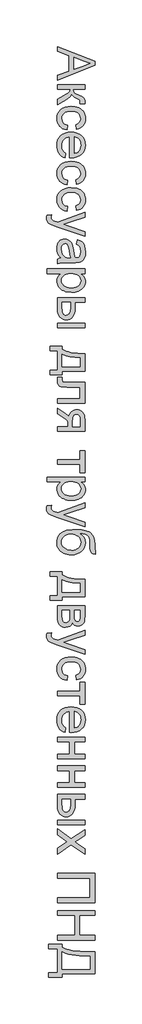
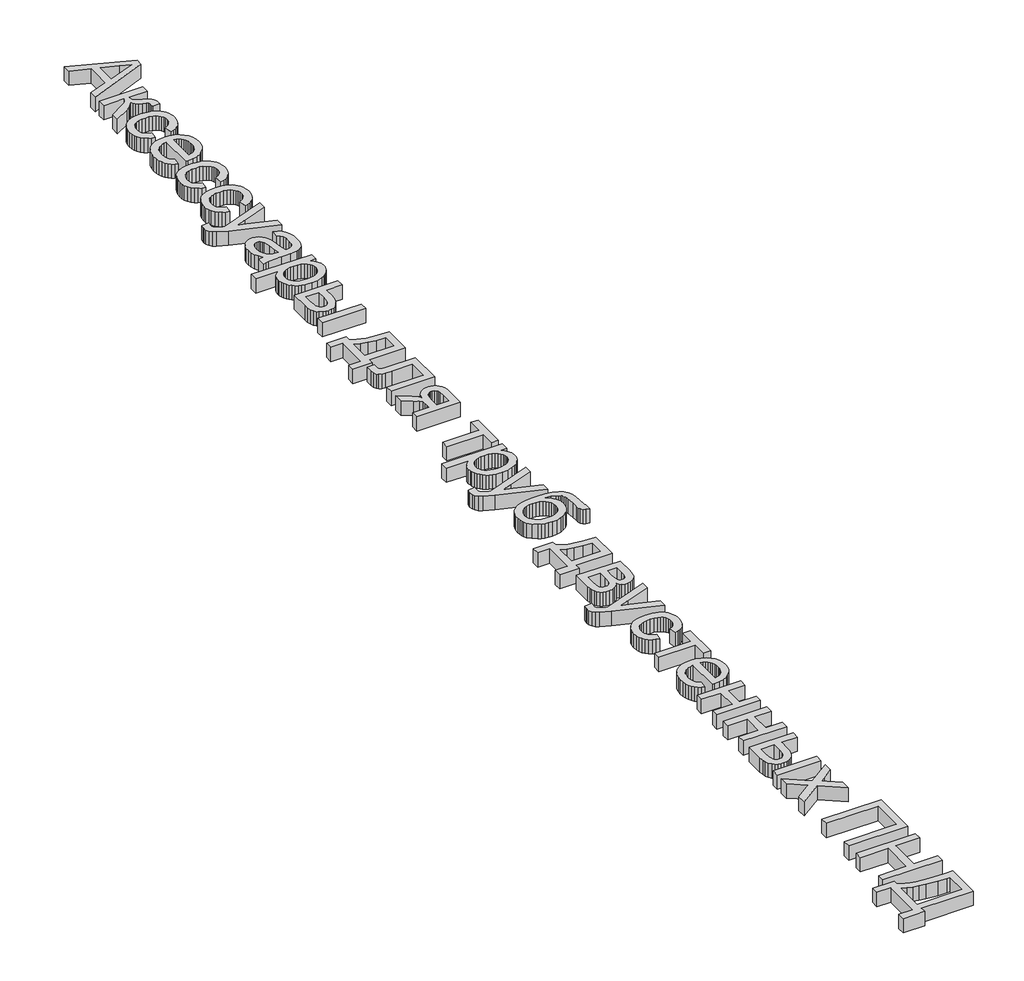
# One storey, part 33 of 33: 1 proxy.
"""IFC4 building model written with IfcOpenShell, lengths in millimetres."""

from ifc_helpers import new_model, si_unit, origin, origin_with_axes, place, context, project, spatial, polyline, outline, extrude, element, save

model = new_model("IFC4")

# Units and contexts
model_context = context("Model", 3, world=origin())
ifc_project = project(units=[si_unit("LENGTHUNIT", "METRE", prefix="MILLI")], contexts=[model_context])

# Site, building, storey
site = spatial("IfcSite", under=ifc_project)
building = spatial("IfcBuilding", under=site)
storey = spatial("IfcBuildingStorey", under=building, Name="Уровень 1", Elevation=0.0)

# Proxy
placement = place(None, origin())
element("IfcBuildingElementProxy", 1, Name="Надпись на модели 1", ObjectType="Надпись на модели 1", at=placement, inside=storey, context=model_context, shape_type="SweptSolid", body=[
    extrude(outline(polyline([(118224.4625724, -498.1536761), (118815.2318032, -733.9709838), (118815.2318032, -796.8555992), (118224.4625724, -1032.6729069), (118224.4625724, -954.6440607), (118409.077957, -886.99983), (118409.077957, -643.6825223), (118224.4625724, -576.1825223), (118224.4625724, -498.1536761)]), holes=[polyline([(118482.9241109, -670.7979069), (118482.9241109, -860.0286761), (118628.1644955, -806.8075223), (118741.3856493, -765.4132915), (118640.8568032, -728.6344454), (118482.9241109, -670.7979069)])]), origin_with_axes(), (0.0, 0.0, 1.0), 150.0),
    extrude(outline(polyline([(118658.3087262, -1102.3363684), (118658.3087262, -1176.1825223), (118473.6933416, -1176.1825223), (118477.0106493, -1206.21858), (118486.9625724, -1225.6536761), (118512.9241109, -1242.8531954), (118564.2702647, -1266.1825223), (118606.2594474, -1284.9866088), (118630.9769955, -1299.8604069), (118644.4445436, -1313.7426184), (118652.6837262, -1329.5719454), (118656.9024762, -1351.4769934), (118658.3087262, -1383.5863684), (118658.3087262, -1397.7209838), (118584.0298801, -1397.7209838), (118584.4625724, -1377.8171377), (118582.515457, -1354.7402146), (118576.6741109, -1341.7594454), (118560.4120916, -1331.2305992), (118528.0683416, -1316.37483), (118495.6705051, -1300.7798781), (118475.4962262, -1286.5911761), (118462.0286782, -1269.4096857), (118449.7510339, -1244.8363684), (118439.3574041, -1268.2378107), (118421.0130532, -1291.4229069), (118394.7179811, -1314.3916569), (118360.4721878, -1337.1440607), (118224.4625724, -1416.1825223), (118224.4625724, -1332.2402146), (118357.5875724, -1254.7882915), (118393.0142551, -1233.87483), (118413.9096878, -1215.8459838), (118424.1320436, -1197.6368492), (118427.5394955, -1176.1825223), (118224.4625724, -1176.1825223), (118224.4625724, -1102.3363684), (118658.3087262, -1102.3363684)])), origin_with_axes(), (0.0, 0.0, 1.0), 150.0),
    extrude(outline(polyline([(118381.3856493, -1739.2594454), (118372.1548801, -1813.1055992), (118337.3096277, -1805.0737482), (118306.4757936, -1792.5166569), (118279.6533777, -1775.4343252), (118256.8423801, -1753.8267531), (118238.6377527, -1728.6043973), (118225.6344474, -1700.6777146), (118217.8324642, -1670.046705), (118215.2318032, -1636.7113684), (118218.8601085, -1595.2946016), (118229.7450243, -1558.1596857), (118247.8865508, -1525.3066208), (118273.2846878, -1496.7354069), (118305.461671, -1473.6089045), (118343.9397359, -1457.0899742), (118388.7188825, -1447.178616), (118439.7991109, -1443.87483), (118505.5142551, -1449.5178588), (118535.08607, -1456.5716449), (118562.4673801, -1466.4469454), (118587.1083056, -1479.2113684), (118608.4589666, -1494.9325223), (118626.5193633, -1513.6104069), (118641.2894955, -1535.2450223), (118652.7738705, -1558.8583035), (118660.9769955, -1583.4721857), (118665.8988705, -1609.0866689), (118667.5394955, -1635.7017531), (118665.2858897, -1668.4646737), (118658.5250724, -1698.0995896), (118647.2570436, -1724.6065006), (118631.4818032, -1747.9854069), (118611.5599282, -1767.8396737), (118587.8519955, -1783.7726665), (118560.3580051, -1795.7843853), (118529.077957, -1803.87483), (118519.8471878, -1730.0286761), (118552.0647359, -1716.6332434), (118575.1596878, -1695.7738684), (118589.0599282, -1668.6043973), (118593.6933416, -1636.2786761), (118591.4126926, -1611.1870295), (118584.5707455, -1588.5563204), (118573.1675003, -1568.3865487), (118557.202957, -1550.6777146), (118536.3075243, -1536.2591449), (118510.1116109, -1525.9601665), (118478.6152166, -1519.7807795), (118441.8183416, -1517.7209838), (118404.4670796, -1519.7357074), (118372.6056012, -1525.7798781), (118346.2339065, -1535.8534958), (118325.3519955, -1549.9565607), (118309.4821037, -1567.3138324), (118298.1464666, -1587.1500704), (118291.3450844, -1609.4652747), (118289.077957, -1634.2594454), (118294.7390147, -1672.4986281), (118301.8153368, -1689.0355872), (118311.7221878, -1703.8507915), (118324.5677407, -1716.5295776), (118340.4601686, -1726.6572819), (118359.3994714, -1734.2339045), (118381.3856493, -1739.2594454)])), origin_with_axes(), (0.0, 0.0, 1.0), 150.0),
    extrude(outline(polyline([(118353.6933416, -2181.4709838), (118344.4625724, -2253.87483), (118315.4631734, -2242.773568), (118289.9072839, -2227.7870896), (118267.7949041, -2208.9153949), (118249.1260339, -2186.1584838), (118234.297308, -2159.7507314), (118223.7053609, -2129.9265127), (118217.3501926, -2096.6858276), (118215.2318032, -2060.0286761), (118218.8871517, -2014.2083636), (118229.8531974, -1973.3820415), (118248.1299402, -1937.5497098), (118273.7173801, -1906.7113684), (118305.9033777, -1881.9126906), (118343.9757936, -1864.1993492), (118387.9346277, -1853.5713444), (118437.7798801, -1850.0286761), (118489.3153368, -1853.6074021), (118534.7390147, -1864.34358), (118574.0509137, -1882.2372098), (118607.2510339, -1907.2882915), (118633.6272359, -1938.0455031), (118652.4673801, -1973.0575223), (118663.7714666, -2012.3243492), (118667.5394955, -2055.8459838), (118663.7804811, -2097.9658756), (118652.5034378, -2136.0563204), (118633.7083657, -2170.117318), (118607.3952647, -2200.1488684), (118574.2672599, -2224.663592), (118535.0274762, -2242.1741088), (118489.6759137, -2252.6804189), (118438.2125724, -2256.1825223), (118418.3087262, -2255.74983), (118418.3087262, -1923.87483), (118388.8405772, -1928.1521737), (118363.0322839, -1936.6572819), (118340.8838464, -1949.3901545), (118322.3952647, -1966.3507915), (118307.8189426, -1986.601693), (118297.4072839, -2009.2053588), (118291.1602887, -2034.1617891), (118289.077957, -2061.4709838), (118292.9361301, -2100.7738684), (118304.5106493, -2133.87483), (118324.5226686, -2160.7738684), (118353.6933416, -2181.4709838)]), holes=[polyline([(118492.1548801, -1923.87483), (118492.1548801, -2182.3363684), (118531.1693032, -2172.3483877), (118546.5118512, -2163.7576425), (118559.077957, -2152.7690607), (118574.2221878, -2132.6308396), (118585.0394955, -2109.7161761), (118591.5298801, -2084.0250704), (118593.6933416, -2055.5575223), (118591.9670796, -2029.5914766), (118586.7882936, -2005.7798781), (118578.1569835, -1984.1227266), (118566.0731493, -1964.6200223), (118551.0956854, -1948.2543372), (118533.7834859, -1936.0082434), (118514.1365508, -1927.881741), (118492.1548801, -1923.87483)])]), origin_with_axes(), (0.0, 0.0, 1.0), 150.0),
    extrude(outline(polyline([(118381.3856493, -2606.9517531), (118372.1548801, -2680.7979069), (118337.3096277, -2672.7660559), (118306.4757936, -2660.2089646), (118279.6533777, -2643.1266329), (118256.8423801, -2621.5190607), (118238.6377527, -2596.296705), (118225.6344474, -2568.3700223), (118217.8324642, -2537.7390127), (118215.2318032, -2504.4036761), (118218.8601085, -2462.9869093), (118229.7450243, -2425.8519934), (118247.8865508, -2392.9989285), (118273.2846878, -2364.4277146), (118305.461671, -2341.3012122), (118343.9397359, -2324.7822819), (118388.7188825, -2314.8709237), (118439.7991109, -2311.5671377), (118505.5142551, -2317.2101665), (118535.08607, -2324.2639526), (118562.4673801, -2334.1392531), (118587.1083056, -2346.9036761), (118608.4589666, -2362.62483), (118626.5193633, -2381.3027146), (118641.2894955, -2402.93733), (118652.7738705, -2426.5506112), (118660.9769955, -2451.1644934), (118665.8988705, -2476.7789766), (118667.5394955, -2503.3940607), (118665.2858897, -2536.1569814), (118658.5250724, -2565.7918973), (118647.2570436, -2592.2988083), (118631.4818032, -2615.6777146), (118611.5599282, -2635.5319814), (118587.8519955, -2651.4649742), (118560.3580051, -2663.476693), (118529.077957, -2671.5671377), (118519.8471878, -2597.7209838), (118552.0647359, -2584.3255511), (118575.1596878, -2563.4661761), (118589.0599282, -2536.296705), (118593.6933416, -2503.9709838), (118591.4126926, -2478.8793372), (118584.5707455, -2456.2486281), (118573.1675003, -2436.0788564), (118557.202957, -2418.3700223), (118536.3075243, -2403.9514526), (118510.1116109, -2393.6524742), (118478.6152166, -2387.4730872), (118441.8183416, -2385.4132915), (118404.4670796, -2387.4280151), (118372.6056012, -2393.4721857), (118346.2339065, -2403.5458035), (118325.3519955, -2417.6488684), (118309.4821037, -2435.0061401), (118298.1464666, -2454.8423781), (118291.3450844, -2477.1575824), (118289.077957, -2501.9517531), (118294.7390147, -2540.1909357), (118301.8153368, -2556.7278949), (118311.7221878, -2571.5430992), (118324.5677407, -2584.2218853), (118340.4601686, -2594.3495896), (118359.3994714, -2601.9262122), (118381.3856493, -2606.9517531)])), origin_with_axes(), (0.0, 0.0, 1.0), 150.0),
    extrude(outline(polyline([(118381.3856493, -3022.3363684), (118372.1548801, -3096.1825223), (118337.3096277, -3088.1506713), (118306.4757936, -3075.59358), (118279.6533777, -3058.5112482), (118256.8423801, -3036.9036761), (118238.6377527, -3011.6813204), (118225.6344474, -2983.7546377), (118217.8324642, -2953.1236281), (118215.2318032, -2919.7882915), (118218.8601085, -2878.3715247), (118229.7450243, -2841.2366088), (118247.8865508, -2808.3835439), (118273.2846878, -2779.81233), (118305.461671, -2756.6858276), (118343.9397359, -2740.1668973), (118388.7188825, -2730.2555391), (118439.7991109, -2726.9517531), (118505.5142551, -2732.5947819), (118535.08607, -2739.648568), (118562.4673801, -2749.5238684), (118587.1083056, -2762.2882915), (118608.4589666, -2778.0094454), (118626.5193633, -2796.68733), (118641.2894955, -2818.3219454), (118652.7738705, -2841.9352266), (118660.9769955, -2866.5491088), (118665.8988705, -2892.163592), (118667.5394955, -2918.7786761), (118665.2858897, -2951.5415968), (118658.5250724, -2981.1765127), (118647.2570436, -3007.6834237), (118631.4818032, -3031.06233), (118611.5599282, -3050.9165968), (118587.8519955, -3066.8495896), (118560.3580051, -3078.8613083), (118529.077957, -3086.9517531), (118519.8471878, -3013.1055992), (118552.0647359, -2999.7101665), (118575.1596878, -2978.8507915), (118589.0599282, -2951.6813204), (118593.6933416, -2919.3555992), (118591.4126926, -2894.2639526), (118584.5707455, -2871.6332434), (118573.1675003, -2851.4634718), (118557.202957, -2833.7546377), (118536.3075243, -2819.336068), (118510.1116109, -2809.0370896), (118478.6152166, -2802.8577026), (118441.8183416, -2800.7979069), (118404.4670796, -2802.8126305), (118372.6056012, -2808.8568011), (118346.2339065, -2818.9304189), (118325.3519955, -2833.0334838), (118309.4821037, -2850.3907555), (118298.1464666, -2870.2269934), (118291.3450844, -2892.5421978), (118289.077957, -2917.3363684), (118294.7390147, -2955.5755511), (118301.8153368, -2972.1125103), (118311.7221878, -2986.9277146), (118324.5677407, -2999.6065006), (118340.4601686, -3009.734205), (118359.3994714, -3017.3108276), (118381.3856493, -3022.3363684)])), origin_with_axes(), (0.0, 0.0, 1.0), 150.0),
    extrude(outline(polyline([(118058.3087262, -3160.7979069), (118129.4144955, -3151.5671377), (118122.9241109, -3189.0671377), (118124.9613705, -3208.7906954), (118131.0731493, -3224.1152146), (118140.8267551, -3236.0503107), (118153.7894955, -3245.6055992), (118208.1644955, -3265.7979069), (118226.0491109, -3271.5671377), (118658.3087262, -3114.6440607), (118658.3087262, -3192.5286761), (118417.4433416, -3275.74983), (118321.0971878, -3304.7402146), (118406.1933416, -3333.7305992), (118658.3087262, -3419.2594454), (118658.3087262, -3496.5671377), (118214.077957, -3345.5575223), (118117.7318032, -3306.3267531), (118086.9745916, -3286.2426184), (118065.6644955, -3263.4902146), (118053.2245916, -3237.0599261), (118049.077957, -3205.9421377), (118051.3856493, -3184.5599261), (118058.3087262, -3160.7979069)])), origin_with_axes(), (0.0, 0.0, 1.0), 150.0),
    extrude(outline(polyline([(118279.8471878, -3834.6440607), (118249.5947839, -3799.3616088), (118229.7991109, -3763.0334838), (118218.8736301, -3724.8303588), (118215.2318032, -3683.9229069), (118217.422308, -3651.0427987), (118223.9938224, -3622.2101665), (118234.9463464, -3597.4250103), (118250.2798801, -3576.68733), (118269.0208657, -3560.3126305), (118290.1957455, -3548.6164165), (118313.8045195, -3541.5986881), (118339.8471878, -3539.2594454), (118370.4601686, -3542.7930992), (118398.2606493, -3553.3940607), (118422.0587262, -3569.7462242), (118440.6644955, -3590.5334838), (118454.7269955, -3614.9625704), (118464.8952647, -3642.2402146), (118476.0010339, -3706.1344454), (118487.6837262, -3781.6392531), (118501.3856493, -3834.2113684), (118517.827957, -3834.6440607), (118550.7846878, -3829.5599261), (118562.9902166, -3823.2047579), (118572.3471878, -3814.3075223), (118581.6861301, -3798.9289165), (118588.3568032, -3780.1969454), (118593.6933416, -3732.6729069), (118590.1416589, -3688.6825223), (118579.4866109, -3657.9613684), (118559.781082, -3637.0118492), (118529.077957, -3622.3363684), (118538.3087262, -3548.4902146), (118578.6933416, -3561.3087242), (118610.4241109, -3580.43733), (118634.6909378, -3607.6608877), (118652.6837262, -3644.7642531), (118663.8255532, -3690.1428588), (118667.5394955, -3742.1921377), (118664.2582455, -3792.1140127), (118654.4144955, -3831.68733), (118639.6128128, -3861.5250704), (118621.4577647, -3882.2402146), (118599.0118512, -3895.9781954), (118571.3375724, -3904.8844454), (118506.7221878, -3908.4902146), (118414.8471878, -3908.4902146), (118286.5539186, -3912.2402146), (118254.8411782, -3917.7930992), (118224.4625724, -3926.9517531), (118224.4625724, -3853.1055992), (118250.1356493, -3841.2786761), (118279.8471878, -3834.6440607)]), holes=[polyline([(118427.5394955, -3834.6440607), (118415.2438224, -3785.0286761), (118404.8952647, -3715.5094454), (118392.9241109, -3651.9757915), (118384.7390147, -3635.4433396), (118373.452957, -3623.2017531), (118359.9313224, -3615.6296377), (118345.0394955, -3613.1055992), (118323.0803609, -3618.6043973), (118305.0875724, -3635.1007915), (118293.0803609, -3662.234205), (118289.077957, -3699.6440607), (118293.4950243, -3739.3075223), (118306.7462262, -3774.3555992), (118326.2714666, -3802.7690607), (118349.5106493, -3822.5286761), (118373.452957, -3831.2906954), (118406.6260339, -3834.2113684), (118427.5394955, -3834.6440607)])]), origin_with_axes(), (0.0, 0.0, 1.0), 150.0),
    extrude(outline(polyline([(118058.3087262, -4010.0286761), (118658.3087262, -4010.0286761), (118658.3087262, -4083.87483), (118585.9048801, -4083.87483), (118621.6200243, -4107.9613684), (118647.1308416, -4134.9325223), (118662.437332, -4166.37483), (118667.5394955, -4203.87483), (118665.7546397, -4229.6290367), (118660.4000724, -4253.8147338), (118651.4757936, -4276.4319213), (118638.9818032, -4297.4805992), (118623.2426205, -4316.5010319), (118604.5827647, -4333.0334838), (118583.0022359, -4347.077955), (118558.5010339, -4358.6344454), (118504.0899762, -4374.1031954), (118444.702957, -4379.2594454), (118381.5479089, -4373.4361281), (118352.4718873, -4366.1569814), (118325.0635339, -4355.9661761), (118300.0394955, -4343.0034357), (118278.1164186, -4327.4084838), (118259.2943032, -4309.1813204), (118243.5731493, -4288.3219454), (118231.1738104, -4265.8534958), (118222.3171397, -4242.7991088), (118217.0031373, -4219.1587843), (118215.2318032, -4194.9325223), (118219.9733897, -4160.984205), (118234.1981493, -4130.6777146), (118255.6705051, -4104.734205), (118282.1548801, -4083.87483), (118058.3087262, -4083.87483), (118058.3087262, -4010.0286761)]), holes=[polyline([(118437.9241109, -4083.87483), (118402.3351686, -4085.8715247), (118371.7221878, -4091.8616088), (118346.0851686, -4101.8450824), (118325.4241109, -4115.8219454), (118309.5226686, -4132.647366), (118298.1644955, -4151.1765127), (118291.3495916, -4171.4093853), (118289.077957, -4193.3459838), (118291.4307214, -4215.5980872), (118298.4890147, -4236.2005511), (118310.2528368, -4255.1533756), (118326.7221878, -4272.4565607), (118348.1314426, -4286.8751305), (118374.7149762, -4297.1741088), (118406.4727887, -4303.3534958), (118443.4048801, -4305.4132915), (118478.687332, -4303.4030752), (118509.2462262, -4297.3724261), (118535.0815628, -4287.3213444), (118556.1933416, -4273.24983), (118572.5995916, -4256.3838444), (118584.3183416, -4237.9493492), (118591.3495916, -4217.9463444), (118593.6933416, -4196.37483), (118591.2008537, -4174.8709237), (118583.7233897, -4154.6380511), (118571.2609498, -4135.6762122), (118553.8135339, -4117.9854069), (118531.6155171, -4103.0620295), (118504.9012743, -4092.4024742), (118473.6708056, -4086.006741), (118437.9241109, -4083.87483)])]), origin_with_axes(), (0.0, 0.0, 1.0), 150.0),
    extrude(outline(polyline([(118658.3087262, -4868.4902146), (118658.3087262, -4942.3363684), (118224.4625724, -4942.3363684), (118224.4625724, -4868.4902146), (118658.3087262, -4868.4902146)])), origin_with_axes(), (0.0, 0.0, 1.0), 150.0),
    extrude(outline(polyline([(118658.3087262, -4462.3363684), (118658.3087262, -4536.1825223), (118501.3856493, -4536.1825223), (118501.3856493, -4627.4805992), (118499.0734498, -4669.492318), (118492.1368512, -4706.3928588), (118480.5758537, -4738.1822218), (118464.390457, -4764.8604069), (118444.1395556, -4785.9676785), (118420.3820436, -4801.0443011), (118393.117921, -4810.0902747), (118362.3471878, -4813.1055992), (118334.8937623, -4810.5770535), (118309.5046397, -4802.9914165), (118286.17982, -4790.3486881), (118264.9193032, -4772.6488684), (118247.2194835, -4749.3961641), (118234.5767551, -4720.0947819), (118226.9911181, -4684.7447218), (118224.4625724, -4643.3459838), (118224.4625724, -4462.3363684), (118658.3087262, -4462.3363684)]), holes=[polyline([(118298.3087262, -4536.1825223), (118298.3087262, -4612.0479069), (118302.1849282, -4670.8580031), (118307.0301806, -4692.8802386), (118313.8135339, -4709.9805992), (118322.6521758, -4722.7900944), (118333.6632936, -4731.9397338), (118346.8468873, -4737.4295175), (118362.202957, -4739.2594454), (118386.3255532, -4733.8327627), (118407.6356493, -4717.5527146), (118416.343582, -4703.4226064), (118422.5635339, -4682.7390127), (118427.5394955, -4621.7113684), (118427.5394955, -4536.1825223), (118298.3087262, -4536.1825223)])]), origin_with_axes(), (0.0, 0.0, 1.0), 150.0),
    extrude(outline(polyline([(118658.3087262, -5348.4902146), (118658.3087262, -5625.4132915), (118298.3087262, -5625.4132915), (118298.3087262, -5680.7979069), (118104.4625724, -5680.7979069), (118104.4625724, -5606.9517531), (118224.4625724, -5606.9517531), (118224.4625724, -5302.3363684), (118104.4625724, -5302.3363684), (118104.4625724, -5228.4902146), (118298.3087262, -5228.4902146), (118298.3087262, -5274.6440607), (118326.1768152, -5292.6774141), (118358.9397359, -5308.1957434), (118396.5974883, -5321.1990487), (118439.1500724, -5331.68733), (118538.9397359, -5345.1188204), (118658.3087262, -5348.4902146)]), holes=[polyline([(118584.4625724, -5413.1055992), (118494.0479089, -5407.0479069), (118416.2173801, -5395.7979069), (118350.9709859, -5379.3555992), (118298.3087262, -5357.7209838), (118298.3087262, -5551.5671377), (118584.4625724, -5551.5671377), (118584.4625724, -5413.1055992)])]), origin_with_axes(), (0.0, 0.0, 1.0), 150.0),
    extrude(outline(polyline([(118658.3087262, -5800.7979069), (118658.3087262, -6133.1055992), (118224.8952647, -6133.1055992), (118224.8952647, -6059.2594454), (118584.4625724, -6059.2594454), (118584.4625724, -5874.6440607), (118377.4914186, -5874.6440607), (118317.4193032, -5873.4000704), (118282.0106493, -5869.6680992), (118260.3940628, -5860.3471857), (118241.6981493, -5842.3363684), (118228.7714666, -5815.0046377), (118224.4625724, -5777.7209838), (118228.2125724, -5717.7209838), (118298.3087262, -5717.7209838), (118298.3087262, -5750.74983), (118302.8519955, -5784.1392531), (118308.7293993, -5792.4866088), (118317.2750724, -5797.4805992), (118381.6741109, -5800.7979069), (118658.3087262, -5800.7979069)])), origin_with_axes(), (0.0, 0.0, 1.0), 150.0),
    extrude(outline(polyline([(118658.3087262, -6576.1825223), (118224.4625724, -6576.1825223), (118224.4625724, -6502.3363684), (118390.6164186, -6502.3363684), (118390.6164186, -6462.0959838), (118388.2726686, -6430.0046377), (118381.2414186, -6407.2882915), (118360.796707, -6385.4012723), (118318.2125724, -6355.7979069), (118224.4625724, -6296.9517531), (118224.4625724, -6211.5671377), (118343.0202647, -6285.7017531), (118385.5683416, -6318.4421377), (118397.9721878, -6333.8387723), (118404.4625724, -6348.5863684), (118410.4571637, -6321.4709838), (118419.9313224, -6298.1055992), (118432.8850484, -6278.4902146), (118449.3183416, -6262.62483), (118468.1765147, -6250.3832434), (118488.4048801, -6241.6392531), (118510.0034378, -6236.3928588), (118532.9721878, -6234.6440607), (118559.5647359, -6237.0328829), (118583.5250724, -6244.1993492), (118604.8531974, -6256.1434598), (118623.5491109, -6272.8652146), (118638.7564426, -6294.1122098), (118649.6188224, -6319.6320415), (118656.1362503, -6349.4247098), (118658.3087262, -6383.4902146), (118658.3087262, -6576.1825223)]), holes=[polyline([(118584.4625724, -6502.3363684), (118584.4625724, -6404.9805992), (118580.1897359, -6354.6981473), (118574.8486902, -6337.710467), (118567.3712262, -6326.1584838), (118548.8195436, -6312.9072819), (118527.3471878, -6308.4902146), (118512.1984498, -6310.117318), (118499.2041589, -6314.9986281), (118488.3643152, -6323.1341449), (118479.6789186, -6334.5238684), (118473.0217671, -6350.0512122), (118468.2666589, -6370.5995896), (118464.4625724, -6426.7594454), (118464.4625724, -6502.3363684), (118584.4625724, -6502.3363684)])]), origin_with_axes(), (0.0, 0.0, 1.0), 150.0),
    extrude(outline(polyline([(118658.3087262, -6880.7979069), (118658.3087262, -7231.5671377), (118584.4625724, -7231.5671377), (118584.4625724, -7093.1055992), (118224.4625724, -7093.1055992), (118224.4625724, -7019.2594454), (118584.4625724, -7019.2594454), (118584.4625724, -6880.7979069), (118658.3087262, -6880.7979069)])), origin_with_axes(), (0.0, 0.0, 1.0), 150.0),
    extrude(outline(polyline([(118058.3087262, -7296.1825223), (118658.3087262, -7296.1825223), (118658.3087262, -7370.0286761), (118585.9048801, -7370.0286761), (118621.6200243, -7394.1152146), (118647.1308416, -7421.0863684), (118662.437332, -7452.5286761), (118667.5394955, -7490.0286761), (118665.7546397, -7515.7828829), (118660.4000724, -7539.96858), (118651.4757936, -7562.5857675), (118638.9818032, -7583.6344454), (118623.2426205, -7602.6548781), (118604.5827647, -7619.18733), (118583.0022359, -7633.2318011), (118558.5010339, -7644.7882915), (118504.0899762, -7660.2570415), (118444.702957, -7665.4132915), (118381.5479089, -7659.5899742), (118352.4718873, -7652.3108276), (118325.0635339, -7642.1200223), (118300.0394955, -7629.1572819), (118278.1164186, -7613.56233), (118259.2943032, -7595.3351665), (118243.5731493, -7574.4757915), (118231.1738104, -7552.007342), (118222.3171397, -7528.952955), (118217.0031373, -7505.3126305), (118215.2318032, -7481.0863684), (118219.9733897, -7447.1380511), (118234.1981493, -7416.8315607), (118255.6705051, -7390.8880511), (118282.1548801, -7370.0286761), (118058.3087262, -7370.0286761), (118058.3087262, -7296.1825223)]), holes=[polyline([(118437.9241109, -7370.0286761), (118402.3351686, -7372.0253708), (118371.7221878, -7378.015455), (118346.0851686, -7387.9989285), (118325.4241109, -7401.9757915), (118309.5226686, -7418.8012122), (118298.1644955, -7437.3303588), (118291.3495916, -7457.5632314), (118289.077957, -7479.49983), (118291.4307214, -7501.7519333), (118298.4890147, -7522.3543973), (118310.2528368, -7541.3072218), (118326.7221878, -7558.6104069), (118348.1314426, -7573.0289766), (118374.7149762, -7583.327955), (118406.4727887, -7589.507342), (118443.4048801, -7591.5671377), (118478.687332, -7589.5569213), (118509.2462262, -7583.5262723), (118535.0815628, -7573.4751906), (118556.1933416, -7559.4036761), (118572.5995916, -7542.5376906), (118584.3183416, -7524.1031954), (118591.3495916, -7504.1001906), (118593.6933416, -7482.5286761), (118591.2008537, -7461.0247699), (118583.7233897, -7440.7918973), (118571.2609498, -7421.8300583), (118553.8135339, -7404.1392531), (118531.6155171, -7389.2158756), (118504.9012743, -7378.5563204), (118473.6708056, -7372.1605872), (118437.9241109, -7370.0286761)])]), origin_with_axes(), (0.0, 0.0, 1.0), 150.0),
    extrude(outline(polyline([(118058.3087262, -7748.4902146), (118129.4144955, -7739.2594454), (118122.9241109, -7776.7594454), (118124.9613705, -7796.4830031), (118131.0731493, -7811.8075223), (118140.8267551, -7823.7426184), (118153.7894955, -7833.2979069), (118208.1644955, -7853.4902146), (118226.0491109, -7859.2594454), (118658.3087262, -7702.3363684), (118658.3087262, -7780.2209838), (118417.4433416, -7863.4421377), (118321.0971878, -7892.4325223), (118406.1933416, -7921.4229069), (118658.3087262, -8006.9517531), (118658.3087262, -8084.2594454), (118214.077957, -7933.24983), (118117.7318032, -7894.0190607), (118086.9745916, -7873.9349261), (118065.6644955, -7851.1825223), (118053.2245916, -7824.7522338), (118049.077957, -7793.6344454), (118051.3856493, -7772.2522338), (118058.3087262, -7748.4902146)])), origin_with_axes(), (0.0, 0.0, 1.0), 150.0),
    extrude(outline(polyline([(118824.4625724, -8450.0286761), (118824.4625724, -8514.6440607), (118789.3604089, -8507.6488684), (118766.8423801, -8495.6055992), (118753.5190628, -8478.9108877), (118746.0010339, -8457.9613684), (118742.5394955, -8423.8147338), (118741.3856493, -8367.5286761), (118737.1308416, -8292.4385319), (118731.812332, -8265.5349862), (118724.3664186, -8245.7257915), (118714.5767551, -8230.608604), (118702.2269955, -8217.78108), (118687.3171397, -8207.2432194), (118669.8471878, -8198.9950223), (118626.9745916, -8187.9433396), (118573.3568032, -8183.2017531), (118614.6068032, -8212.8952627), (118644.0298801, -8247.1680992), (118661.6620916, -8286.0563204), (118667.5394955, -8329.5959838), (118663.8030171, -8369.827354), (118652.593582, -8406.4349261), (118633.9111902, -8439.4187002), (118607.7558416, -8468.7786761), (118575.227296, -8492.8832434), (118537.4253128, -8510.1007915), (118494.3498921, -8520.4313204), (118446.0010339, -8523.87483), (118409.0148561, -8522.1665968), (118375.5082455, -8517.0418973), (118345.4812022, -8508.5007314), (118318.9337262, -8496.5430992), (118274.9613705, -8466.6693011), (118242.2750724, -8431.7113684), (118230.4436421, -8411.2666569), (118221.9926205, -8387.4325223), (118216.9220075, -8360.2089646), (118215.2318032, -8329.5959838), (118217.4087863, -8294.1828228), (118223.9397359, -8262.9433396), (118234.8246517, -8235.8775343), (118250.0635339, -8212.9854069), (118268.6963464, -8193.3925583), (118289.7630532, -8176.2245896), (118313.2636541, -8161.4815006), (118339.1981493, -8149.1632915), (118371.3841469, -8139.4457434), (118413.6392551, -8132.5046377), (118465.9634738, -8128.3399742), (118528.3568032, -8126.9517531), (118606.1107094, -8130.4538564), (118670.0455051, -8140.9601665), (118720.1611902, -8158.4706833), (118740.0368663, -8169.8525193), (118756.4577647, -8182.9854069), (118782.1714065, -8214.7657555), (118800.5382936, -8254.0731473), (118811.5584258, -8300.9075824), (118815.2318032, -8355.2690607), (118816.890457, -8437.4805992), (118819.6128128, -8445.5214646), (118824.4625724, -8450.0286761)]), holes=[polyline([(118448.3087262, -8450.0286761), (118478.8090267, -8448.0274742), (118506.4156974, -8442.0238684), (118531.1287383, -8432.0178588), (118552.9481493, -8418.0094454), (118570.774171, -8400.359205), (118583.5070436, -8379.4277146), (118591.1467671, -8355.2149742), (118593.6933416, -8327.7209838), (118591.0025363, -8299.0280752), (118582.9301205, -8273.8147338), (118569.476094, -8252.0809598), (118550.640457, -8233.8267531), (118527.3066229, -8219.3766329), (118500.3580051, -8209.0551184), (118469.7946037, -8202.8622098), (118435.6164186, -8200.7979069), (118402.1503729, -8203.0785559), (118372.8580051, -8209.9205031), (118347.7393152, -8221.3237482), (118326.7943032, -8237.2882915), (118310.2934017, -8256.5971857), (118298.5070436, -8278.0334838), (118291.4352287, -8301.5971857), (118289.077957, -8327.2882915), (118291.80482, -8353.3309598), (118299.9854089, -8376.7955031), (118313.6197238, -8397.6819213), (118332.7077647, -8415.9902146), (118356.2940027, -8430.8820415), (118383.4229089, -8441.5190607), (118414.0944835, -8447.9012723), (118448.3087262, -8450.0286761)])]), origin_with_axes(), (0.0, 0.0, 1.0), 150.0),
    extrude(outline(polyline([(118658.3087262, -8911.5671377), (118658.3087262, -9188.4902146), (118298.3087262, -9188.4902146), (118298.3087262, -9243.87483), (118104.4625724, -9243.87483), (118104.4625724, -9170.0286761), (118224.4625724, -9170.0286761), (118224.4625724, -8865.4132915), (118104.4625724, -8865.4132915), (118104.4625724, -8791.5671377), (118298.3087262, -8791.5671377), (118298.3087262, -8837.7209838), (118326.1768152, -8855.7543372), (118358.9397359, -8871.2726665), (118396.5974883, -8884.2759718), (118439.1500724, -8894.7642531), (118538.9397359, -8908.1957434), (118658.3087262, -8911.5671377)]), holes=[polyline([(118584.4625724, -8976.1825223), (118494.0479089, -8970.12483), (118416.2173801, -8958.87483), (118350.9709859, -8942.4325223), (118298.3087262, -8920.7979069), (118298.3087262, -9114.6440607), (118584.4625724, -9114.6440607), (118584.4625724, -8976.1825223)])]), origin_with_axes(), (0.0, 0.0, 1.0), 150.0),
    extrude(outline(polyline([(118658.3087262, -9326.9517531), (118658.3087262, -9489.6440607), (118655.8387743, -9541.9457434), (118648.4289186, -9578.8507915), (118634.4385339, -9606.0022338), (118612.2269955, -9629.0430992), (118583.2906974, -9644.7822819), (118549.1260339, -9650.0286761), (118521.5959859, -9646.8555992), (118497.8519955, -9637.3363684), (118477.7858897, -9621.4349261), (118461.2894955, -9599.1152146), (118445.9469474, -9626.4469454), (118421.265457, -9648.7305992), (118389.1921397, -9663.5503107), (118351.6741109, -9668.4902146), (118321.4487503, -9664.3886521), (118295.3880532, -9655.9781954), (118273.4920195, -9643.2588444), (118255.7606493, -9626.2305992), (118242.0677407, -9604.8664165), (118232.2870916, -9579.1392531), (118226.4187022, -9549.0491088), (118224.4625724, -9514.5959838), (118224.4625724, -9326.9517531), (118658.3087262, -9326.9517531)]), holes=[polyline([(118298.3087262, -9400.7979069), (118298.3087262, -9491.37483), (118301.6440628, -9540.7378107), (118311.6500724, -9571.7113684), (118319.5331854, -9581.311729), (118329.8411782, -9588.3339646), (118357.7318032, -9594.6440607), (118376.2113705, -9591.4890127), (118393.2846878, -9582.0238684), (118406.6440628, -9567.4926184), (118413.9818032, -9549.1392531), (118418.3087262, -9484.1632915), (118418.3087262, -9400.7979069), (118298.3087262, -9400.7979069)]), polyline([(118492.1548801, -9400.7979069), (118492.1548801, -9473.7786761), (118495.9048801, -9533.9950223), (118501.5298801, -9549.49983), (118510.9048801, -9563.2738684), (118523.3087262, -9572.9553588), (118538.0202647, -9576.1825223), (118550.0184618, -9574.7672579), (118560.0515147, -9570.5214646), (118568.1194234, -9563.4451425), (118574.2221878, -9553.5382915), (118581.9024762, -9522.8531954), (118584.4625724, -9476.0863684), (118584.4625724, -9400.7979069), (118492.1548801, -9400.7979069)])]), origin_with_axes(), (0.0, 0.0, 1.0), 150.0),
    extrude(outline(polyline([(118058.3087262, -9760.7979069), (118129.4144955, -9751.5671377), (118122.9241109, -9789.0671377), (118124.9613705, -9808.7906954), (118131.0731493, -9824.1152146), (118140.8267551, -9836.0503107), (118153.7894955, -9845.6055992), (118208.1644955, -9865.7979069), (118226.0491109, -9871.5671377), (118658.3087262, -9714.6440607), (118658.3087262, -9792.5286761), (118417.4433416, -9875.74983), (118321.0971878, -9904.7402146), (118406.1933416, -9933.7305992), (118658.3087262, -10019.2594454), (118658.3087262, -10096.5671377), (118214.077957, -9945.5575223), (118117.7318032, -9906.3267531), (118086.9745916, -9886.2426184), (118065.6644955, -9863.4902146), (118053.2245916, -9837.0599261), (118049.077957, -9805.9421377), (118051.3856493, -9784.5599261), (118058.3087262, -9760.7979069)])), origin_with_axes(), (0.0, 0.0, 1.0), 150.0),
    extrude(outline(polyline([(118381.3856493, -10434.6440607), (118372.1548801, -10508.4902146), (118337.3096277, -10500.4583636), (118306.4757936, -10487.9012723), (118279.6533777, -10470.8189406), (118256.8423801, -10449.2113684), (118238.6377527, -10423.9890127), (118225.6344474, -10396.06233), (118217.8324642, -10365.4313204), (118215.2318032, -10332.0959838), (118218.8601085, -10290.679217), (118229.7450243, -10253.5443011), (118247.8865508, -10220.6912362), (118273.2846878, -10192.1200223), (118305.461671, -10168.9935199), (118343.9397359, -10152.4745896), (118388.7188825, -10142.5632314), (118439.7991109, -10139.2594454), (118505.5142551, -10144.9024742), (118535.08607, -10151.9562603), (118562.4673801, -10161.8315607), (118587.1083056, -10174.5959838), (118608.4589666, -10190.3171377), (118626.5193633, -10208.9950223), (118641.2894955, -10230.6296377), (118652.7738705, -10254.2429189), (118660.9769955, -10278.8568011), (118665.8988705, -10304.4712843), (118667.5394955, -10331.0863684), (118665.2858897, -10363.8492891), (118658.5250724, -10393.484205), (118647.2570436, -10419.991116), (118631.4818032, -10443.3700223), (118611.5599282, -10463.2242891), (118587.8519955, -10479.1572819), (118560.3580051, -10491.1690006), (118529.077957, -10499.2594454), (118519.8471878, -10425.4132915), (118552.0647359, -10412.0178588), (118575.1596878, -10391.1584838), (118589.0599282, -10363.9890127), (118593.6933416, -10331.6632915), (118591.4126926, -10306.5716449), (118584.5707455, -10283.9409357), (118573.1675003, -10263.7711641), (118557.202957, -10246.06233), (118536.3075243, -10231.6437603), (118510.1116109, -10221.3447819), (118478.6152166, -10215.1653949), (118441.8183416, -10213.1055992), (118404.4670796, -10215.1203228), (118372.6056012, -10221.1644934), (118346.2339065, -10231.2381112), (118325.3519955, -10245.3411761), (118309.4821037, -10262.6984478), (118298.1464666, -10282.5346857), (118291.3450844, -10304.8498901), (118289.077957, -10329.6440607), (118294.7390147, -10367.8832434), (118301.8153368, -10384.4202026), (118311.7221878, -10399.2354069), (118324.5677407, -10411.914193), (118340.4601686, -10422.0418973), (118359.3994714, -10429.6185199), (118381.3856493, -10434.6440607)])), origin_with_axes(), (0.0, 0.0, 1.0), 150.0),
    extrude(outline(polyline([(118658.3087262, -10536.1825223), (118658.3087262, -10886.9517531), (118584.4625724, -10886.9517531), (118584.4625724, -10748.4902146), (118224.4625724, -10748.4902146), (118224.4625724, -10674.6440607), (118584.4625724, -10674.6440607), (118584.4625724, -10536.1825223), (118658.3087262, -10536.1825223)])), origin_with_axes(), (0.0, 0.0, 1.0), 150.0),
    extrude(outline(polyline([(118353.6933416, -11255.3171377), (118344.4625724, -11327.7209838), (118315.4631734, -11316.6197218), (118289.9072839, -11301.6332434), (118267.7949041, -11282.7615487), (118249.1260339, -11260.0046377), (118234.297308, -11233.5968853), (118223.7053609, -11203.7726665), (118217.3501926, -11170.5319814), (118215.2318032, -11133.87483), (118218.8871517, -11088.0545175), (118229.8531974, -11047.2281954), (118248.1299402, -11011.3958636), (118273.7173801, -10980.5575223), (118305.9033777, -10955.7588444), (118343.9757936, -10938.0455031), (118387.9346277, -10927.4174982), (118437.7798801, -10923.87483), (118489.3153368, -10927.4535559), (118534.7390147, -10938.1897338), (118574.0509137, -10956.0833636), (118607.2510339, -10981.1344454), (118633.6272359, -11011.8916569), (118652.4673801, -11046.9036761), (118663.7714666, -11086.1705031), (118667.5394955, -11129.6921377), (118663.7804811, -11171.8120295), (118652.5034378, -11209.9024742), (118633.7083657, -11243.9634718), (118607.3952647, -11273.9950223), (118574.2672599, -11298.5097458), (118535.0274762, -11316.0202627), (118489.6759137, -11326.5265728), (118438.2125724, -11330.0286761), (118418.3087262, -11329.5959838), (118418.3087262, -10997.7209838), (118388.8405772, -11001.9983276), (118363.0322839, -11010.5034357), (118340.8838464, -11023.2363083), (118322.3952647, -11040.1969454), (118307.8189426, -11060.4478468), (118297.4072839, -11083.0515127), (118291.1602887, -11108.007943), (118289.077957, -11135.3171377), (118292.9361301, -11174.6200223), (118304.5106493, -11207.7209838), (118324.5226686, -11234.6200223), (118353.6933416, -11255.3171377)]), holes=[polyline([(118492.1548801, -10997.7209838), (118492.1548801, -11256.1825223), (118531.1693032, -11246.1945415), (118546.5118512, -11237.6037963), (118559.077957, -11226.6152146), (118574.2221878, -11206.4769934), (118585.0394955, -11183.56233), (118591.5298801, -11157.8712242), (118593.6933416, -11129.4036761), (118591.9670796, -11103.4376305), (118586.7882936, -11079.6260319), (118578.1569835, -11057.9688805), (118566.0731493, -11038.4661761), (118551.0956854, -11022.100491), (118533.7834859, -11009.8543973), (118514.1365508, -11001.7278949), (118492.1548801, -10997.7209838)])]), origin_with_axes(), (0.0, 0.0, 1.0), 150.0),
    extrude(outline(polyline([(118658.3087262, -11403.87483), (118658.3087262, -11477.7209838), (118492.1548801, -11477.7209838), (118492.1548801, -11671.5671377), (118658.3087262, -11671.5671377), (118658.3087262, -11745.4132915), (118224.4625724, -11745.4132915), (118224.4625724, -11671.5671377), (118418.3087262, -11671.5671377), (118418.3087262, -11477.7209838), (118224.4625724, -11477.7209838), (118224.4625724, -11403.87483), (118658.3087262, -11403.87483)])), origin_with_axes(), (0.0, 0.0, 1.0), 150.0),
    extrude(outline(polyline([(118658.3087262, -11856.1825223), (118658.3087262, -11930.0286761), (118492.1548801, -11930.0286761), (118492.1548801, -12123.87483), (118658.3087262, -12123.87483), (118658.3087262, -12197.7209838), (118224.4625724, -12197.7209838), (118224.4625724, -12123.87483), (118418.3087262, -12123.87483), (118418.3087262, -11930.0286761), (118224.4625724, -11930.0286761), (118224.4625724, -11856.1825223), (118658.3087262, -11856.1825223)])), origin_with_axes(), (0.0, 0.0, 1.0), 150.0),
    extrude(outline(polyline([(118658.3087262, -12308.4902146), (118658.3087262, -12382.3363684), (118501.3856493, -12382.3363684), (118501.3856493, -12473.6344454), (118499.0734498, -12515.6461641), (118492.1368512, -12552.546705), (118480.5758537, -12584.336068), (118464.390457, -12611.0142531), (118444.1395556, -12632.1215247), (118420.3820436, -12647.1981473), (118393.117921, -12656.2441208), (118362.3471878, -12659.2594454), (118334.8937623, -12656.7308997), (118309.5046397, -12649.1452627), (118286.17982, -12636.5025343), (118264.9193032, -12618.8027146), (118247.2194835, -12595.5500103), (118234.5767551, -12566.2486281), (118226.9911181, -12530.898568), (118224.4625724, -12489.49983), (118224.4625724, -12308.4902146), (118658.3087262, -12308.4902146)]), holes=[polyline([(118298.3087262, -12382.3363684), (118298.3087262, -12458.2017531), (118302.1849282, -12517.0118492), (118307.0301806, -12539.0340848), (118313.8135339, -12556.1344454), (118322.6521758, -12568.9439406), (118333.6632936, -12578.09358), (118346.8468873, -12583.5833636), (118362.202957, -12585.4132915), (118386.3255532, -12579.9866088), (118407.6356493, -12563.7065607), (118416.343582, -12549.5764526), (118422.5635339, -12528.8928588), (118427.5394955, -12467.8652146), (118427.5394955, -12382.3363684), (118298.3087262, -12382.3363684)])]), origin_with_axes(), (0.0, 0.0, 1.0), 150.0),
    extrude(outline(polyline([(118658.3087262, -12714.6440607), (118658.3087262, -12788.4902146), (118224.4625724, -12788.4902146), (118224.4625724, -12714.6440607), (118658.3087262, -12714.6440607)])), origin_with_axes(), (0.0, 0.0, 1.0), 150.0),
    extrude(outline(polyline([(118224.4625724, -12853.1055992), (118442.5394955, -13010.8940607), (118658.3087262, -12862.3363684), (118658.3087262, -12951.1825223), (118554.4625724, -13022.8652146), (118505.4241109, -13056.3267531), (118545.5202647, -13085.3171377), (118658.3087262, -13166.9517531), (118658.3087262, -13255.7979069), (118442.5394955, -13099.7402146), (118224.4625724, -13250.0286761), (118224.4625724, -13161.1825223), (118355.5683416, -13070.74983), (118379.5106493, -13054.1632915), (118224.4625724, -12941.9517531), (118224.4625724, -12853.1055992)])), origin_with_axes(), (0.0, 0.0, 1.0), 150.0),
    extrude(outline(polyline([(118815.2318032, -13554.6440607), (118815.2318032, -14016.1825223), (118224.4625724, -14016.1825223), (118224.4625724, -13942.3363684), (118741.3856493, -13942.3363684), (118741.3856493, -13628.4902146), (118224.4625724, -13628.4902146), (118224.4625724, -13554.6440607), (118815.2318032, -13554.6440607)])), origin_with_axes(), (0.0, 0.0, 1.0), 150.0),
    extrude(outline(polyline([(118224.4625724, -14145.4132915), (118815.2318032, -14145.4132915), (118815.2318032, -14219.2594454), (118575.2318032, -14219.2594454), (118575.2318032, -14533.1055992), (118815.2318032, -14533.1055992), (118815.2318032, -14606.9517531), (118224.4625724, -14606.9517531), (118224.4625724, -14533.1055992), (118501.3856493, -14533.1055992), (118501.3856493, -14219.2594454), (118224.4625724, -14219.2594454), (118224.4625724, -14145.4132915)])), origin_with_axes(), (0.0, 0.0, 1.0), 150.0),
    extrude(outline(polyline([(118815.2318032, -14791.5671377), (118815.2318032, -15142.3363684), (118298.3087262, -15142.3363684), (118298.3087262, -15197.7209838), (118086.0010339, -15197.7209838), (118086.0010339, -15123.87483), (118224.4625724, -15123.87483), (118224.4625724, -14745.4132915), (118086.0010339, -14745.4132915), (118086.0010339, -14671.5671377), (118298.3087262, -14671.5671377), (118298.3087262, -14717.7209838), (118328.3966169, -14735.0286761), (118365.2949041, -14750.0286761), (118409.003588, -14762.7209838), (118459.5226686, -14773.1055992), (118580.9920195, -14786.9517531), (118729.702957, -14791.5671377), (118815.2318032, -14791.5671377)]), holes=[polyline([(118741.3856493, -15068.4902146), (118741.3856493, -14865.4132915), (118711.6741109, -14865.4132915), (118624.0899762, -14861.6632915), (118509.3183416, -14850.4132915), (118447.9932214, -14841.1104069), (118392.3832455, -14828.2017531), (118342.4884137, -14811.68733), (118298.3087262, -14791.5671377), (118298.3087262, -15068.4902146), (118741.3856493, -15068.4902146)])]), origin_with_axes(), (0.0, 0.0, 1.0), 150.0),
])

save(model, "model.ifc")
